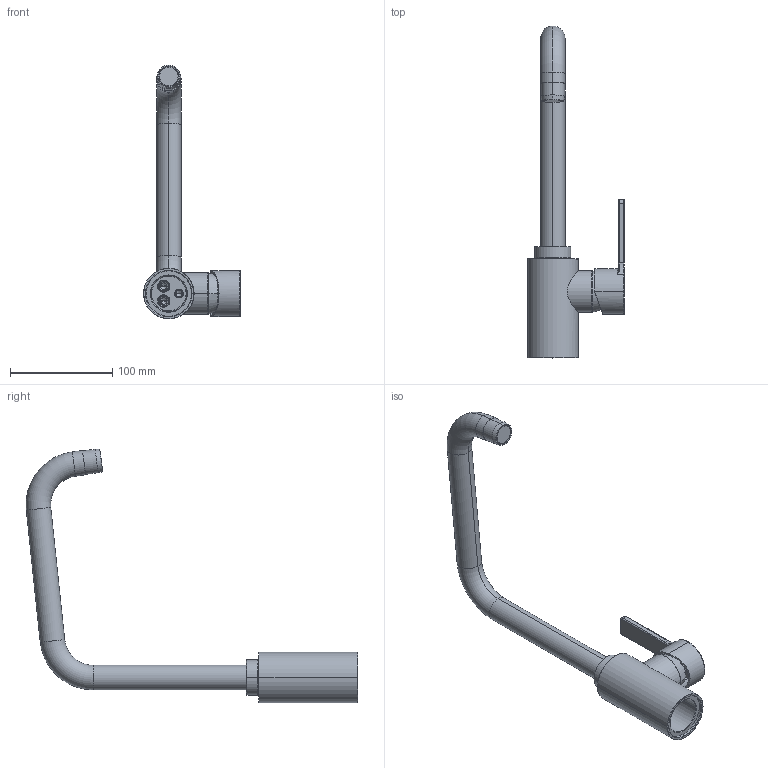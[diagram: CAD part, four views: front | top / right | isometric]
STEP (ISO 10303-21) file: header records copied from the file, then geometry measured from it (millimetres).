
FILE_DESCRIPTION((''),'2;1');
FILE_NAME('3D_SW0001','2012-10-25T',('ivanv'),(''),'PRO/ENGINEER BY PARAMETRIC TECHNOLOGY CORPORATION, 2011370','PRO/ENGINEER BY PARAMETRIC TECHNOLOGY CORPORATION, 2011370','');
FILE_SCHEMA(('CONFIG_CONTROL_DESIGN'));
Length unit declared in the file: millimetre
Products named in the file (1): 3D_SW0001
Bounding box: 94.85 x 324.47 x 248.24 mm (x, y, z)
Volume: 249171.3 mm3; surface area: 123099.7 mm2
Topology: 1 solids, 5 shells, 399 faces, 906 edges, 529 vertices
Faces by surface type: cylinder 151, plane 102, cone 86, torus 44, bspline 12, sphere 4
Entity records: 13057 total; most frequent: CARTESIAN_POINT 4056, DIRECTION 2014, ORIENTED_EDGE 1768, EDGE_CURVE 884, AXIS2_PLACEMENT_3D 824, VERTEX_POINT 529, EDGE_LOOP 443, CIRCLE 436
